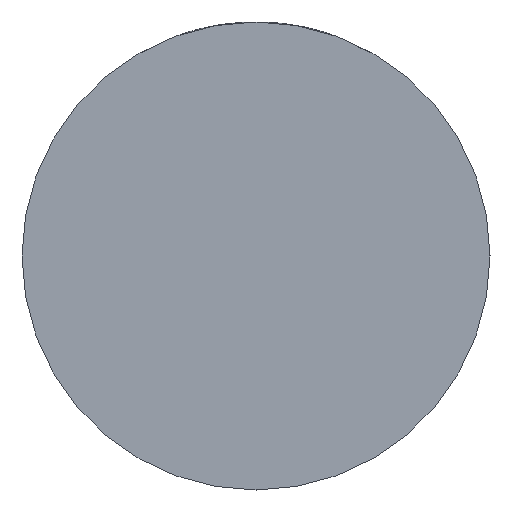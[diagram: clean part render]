
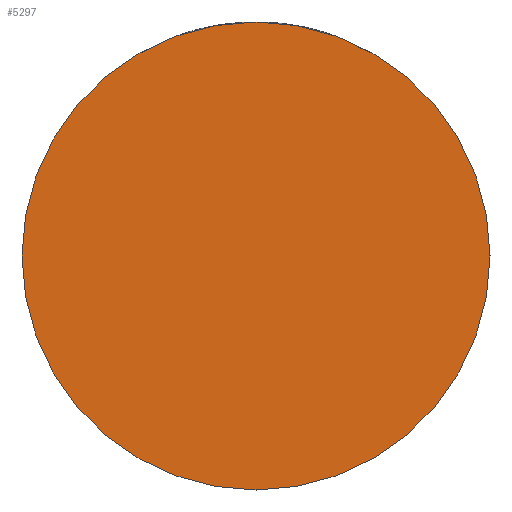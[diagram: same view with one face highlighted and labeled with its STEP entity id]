
A CAD part, front view. The second image highlights one B-rep face of the part: STEP entity #5297.
In plain terms, the highlighted planar face has unit normal (0, -1, 0).
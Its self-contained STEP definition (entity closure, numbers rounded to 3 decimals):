
#49 = CARTESIAN_POINT ( 'NONE',  ( 0., -21., 0. ) ) ;
#234 = DIRECTION ( 'NONE',  ( 0., -1., 0. ) ) ;
#730 = PLANE ( 'NONE',  #5081 ) ;
#783 = DIRECTION ( 'NONE',  ( 0., 1., 0. ) ) ;
#1705 = DIRECTION ( 'NONE',  ( 0., 1., 0. ) ) ;
#1864 = DIRECTION ( 'NONE',  ( 1., 0., 0. ) ) ;
#2452 = DIRECTION ( 'NONE',  ( -1., 0., 0. ) ) ;
#2551 = CARTESIAN_POINT ( 'NONE',  ( 34., -21., 0. ) ) ;
#2800 = FACE_OUTER_BOUND ( 'NONE', #3457, .T. ) ;
#3246 = AXIS2_PLACEMENT_3D ( 'NONE', #49, #1705, #4962 ) ;
#3457 = EDGE_LOOP ( 'NONE', ( #4604, #4123 ) ) ;
#3996 = VERTEX_POINT ( 'NONE', #5342 ) ;
#4052 = CARTESIAN_POINT ( 'NONE',  ( 0., -21., 0. ) ) ;
#4079 = VERTEX_POINT ( 'NONE', #2551 ) ;
#4123 = ORIENTED_EDGE ( 'NONE', *, *, #4739, .F. ) ;
#4199 = CIRCLE ( 'NONE', #4891, 34. ) ;
#4251 = EDGE_CURVE ( 'NONE', #3996, #4079, #4199, .T. ) ;
#4548 = CIRCLE ( 'NONE', #3246, 34. ) ;
#4604 = ORIENTED_EDGE ( 'NONE', *, *, #4251, .F. ) ;
#4739 = EDGE_CURVE ( 'NONE', #4079, #3996, #4548, .T. ) ;
#4868 = CARTESIAN_POINT ( 'NONE',  ( 0., -21., 0. ) ) ;
#4891 = AXIS2_PLACEMENT_3D ( 'NONE', #4052, #783, #2452 ) ;
#4962 = DIRECTION ( 'NONE',  ( -1., 0., 0. ) ) ;
#5081 = AXIS2_PLACEMENT_3D ( 'NONE', #4868, #234, #1864 ) ;
#5297 = ADVANCED_FACE ( 'NONE', ( #2800 ), #730, .T. ) ;
#5342 = CARTESIAN_POINT ( 'NONE',  ( -34., -21., 0. ) ) ;
